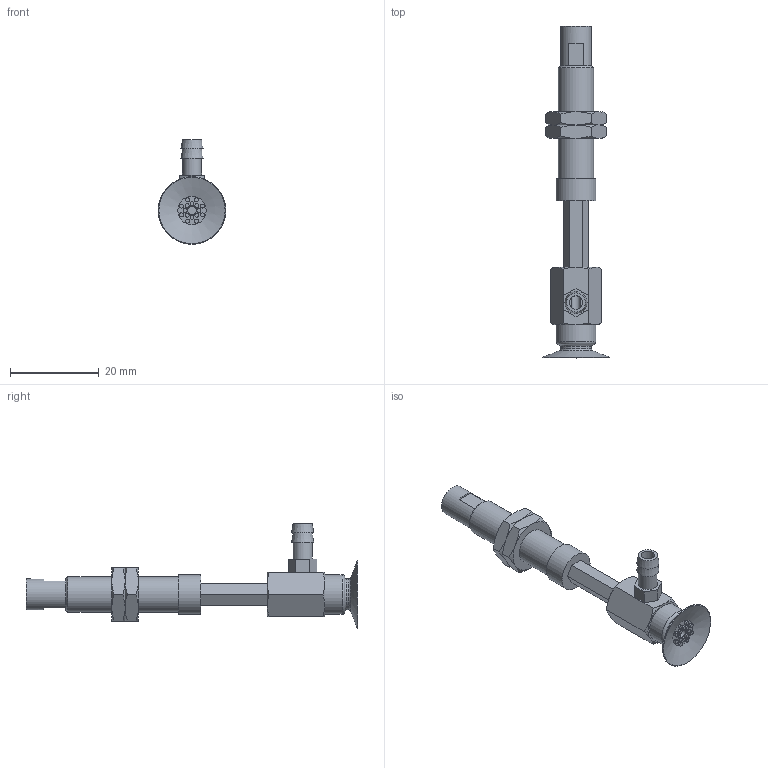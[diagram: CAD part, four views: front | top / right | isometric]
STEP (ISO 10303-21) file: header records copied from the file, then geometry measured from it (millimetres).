
FILE_DESCRIPTION(('STEP AP203'),'1');
FILE_NAME('-T.stp','2025-03-13T03:07:18',(' '),(' '),'Spatial InterOp 3D',' ',' ');
FILE_SCHEMA(('CONFIG_CONTROL_DESIGN'));
Length unit declared in the file: millimetre
Products named in the file (7): BNABPAYH-15A-15-※-T; NAPATH-10A-15--M; NAPATH-10A-15--F; Nut-10A-S; CONNECTOR-10A-15-PA; CONNECTOR-10A-3-T-PA; BPAG-15A-※
Assembly tree (7 placements, depth 2):
  BNABPAYH-15A-15-※-T
    NAPATH-10A-15--M
    NAPATH-10A-15--F
    Nut-10A-S  x2
    CONNECTOR-10A-15-PA
    CONNECTOR-10A-3-T-PA
    BPAG-15A-※
Bounding box: 15.3 x 75 x 23.65 mm (x, y, z)
Volume: 4136.3 mm3; surface area: 5464.6 mm2
Topology: 7 solids, 7 shells, 188 faces, 382 edges, 237 vertices
Faces by surface type: plane 91, cone 53, cylinder 35, torus 9
Full cylindrical faces by diameter (mm): 0.9 x16, 2 x2, 3 x1, 4 x2, 4.134 x2, 4.3 x1, 5 x2, 6 x2, 7 x2, 7.188 x2, 8 x1, 9 x2
Entity records: 4546 total; most frequent: CARTESIAN_POINT 991, DIRECTION 682, ORIENTED_EDGE 538, AXIS2_PLACEMENT_3D 294, EDGE_CURVE 269, EDGE_LOOP 262, FACE_OUTER_BOUND 208, VERTEX_POINT 201
